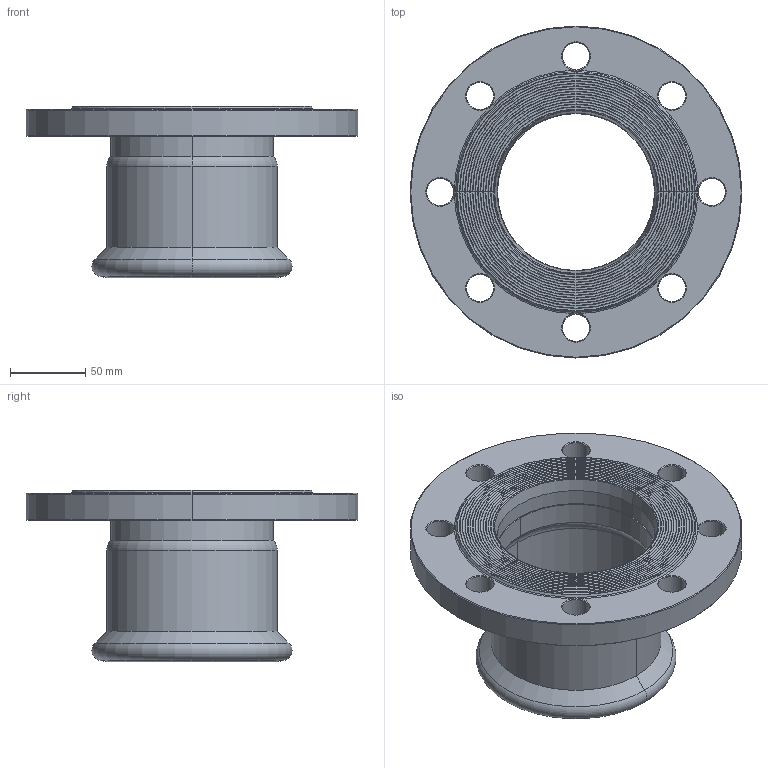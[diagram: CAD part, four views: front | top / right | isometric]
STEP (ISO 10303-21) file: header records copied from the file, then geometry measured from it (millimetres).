
FILE_DESCRIPTION(('Creo Elements/Direct Modeling STEP Export'),'2;1');
FILE_NAME('6206618.stp','2022-03-16T14:50:07',(''),(''),'PTC Creo Elements/Direct Modeling STEP processor for AP214 (Solid Model)','PTC Creo Elements/Direct Modeling 19.0C 15-Aug-2015 (C) Parametric Technology GmbH','');
FILE_SCHEMA(('AUTOMOTIVE_DESIGN { 1 0 10303 214 1 1 1 1 }'));
Length unit declared in the file: millimetre
Products named in the file (1): 108
Bounding box: 220 x 220 x 113.7 mm (x, y, z)
Volume: 622970.3 mm3; surface area: 152280.7 mm2
Topology: 1 solids, 1 shells, 145 faces, 329 edges, 195 vertices
Faces by surface type: cone 58, torus 38, cylinder 30, plane 19
Entity records: 4064 total; most frequent: CARTESIAN_POINT 980, ORIENTED_EDGE 658, DIRECTION 640, EDGE_CURVE 329, AXIS2_PLACEMENT_3D 276, VERTEX_POINT 195, EDGE_LOOP 172, FACE_OUTER_BOUND 145
